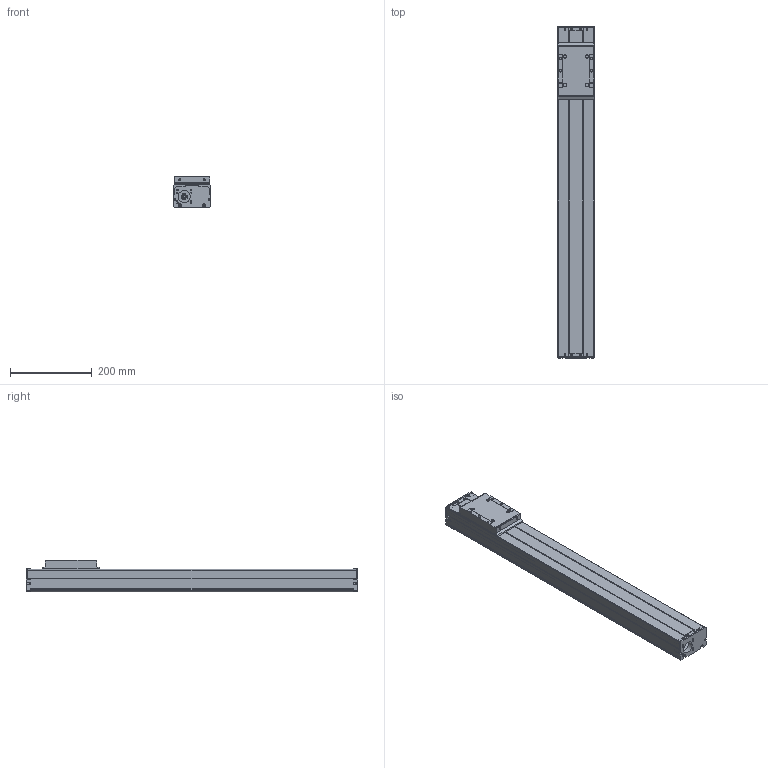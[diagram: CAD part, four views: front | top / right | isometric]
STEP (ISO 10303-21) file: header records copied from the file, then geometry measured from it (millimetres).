
FILE_DESCRIPTION (( 'STEP AP214' ), '1' );
FILE_NAME ('HZMotion TKS90-550A1F0.STEP', '2021-09-15T10:32:34', ( 'AutoBVT' ), ( 'Microsoft' ), 'SwSTEP 2.0', 'SolidWorks 2020', '' );
FILE_SCHEMA (( 'AUTOMOTIVE_DESIGN' ));
Length unit declared in the file: millimetre
Products named in the file (3): A1F0-550-1; 550-2; HZMotion TKS90-550A1F0
Assembly tree (2 placements, depth 2):
  HZMotion TKS90-550A1F0
    550-2
    A1F0-550-1
Bounding box: 90 x 814 x 78 mm (x, y, z)
Volume: 1407155.2 mm3; surface area: 551889.5 mm2
Topology: 2 solids, 6 shells, 525 faces, 1373 edges, 886 vertices
Faces by surface type: plane 270, cylinder 219, cone 32, torus 4
Entity records: 16251 total; most frequent: DIRECTION 2883, CARTESIAN_POINT 2765, ORIENTED_EDGE 2698, EDGE_CURVE 1349, AXIS2_PLACEMENT_3D 1004, VERTEX_POINT 886, LINE 875, VECTOR 875
